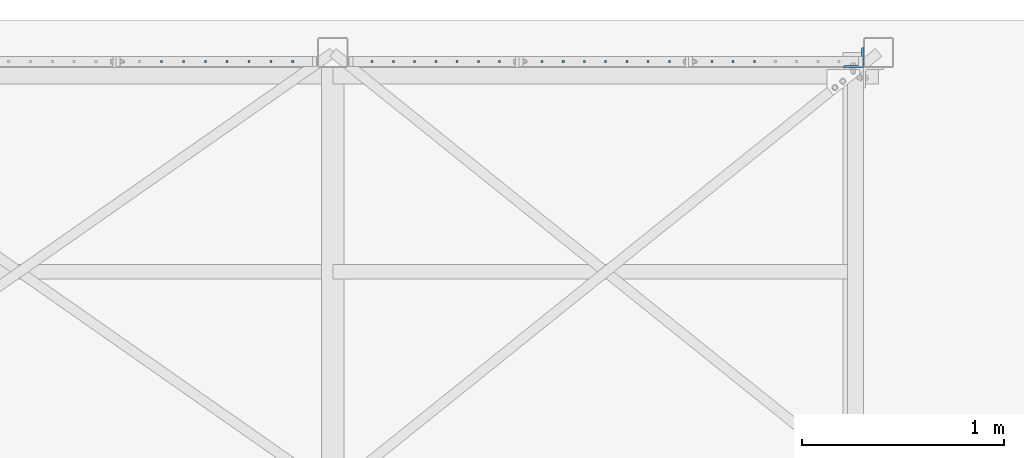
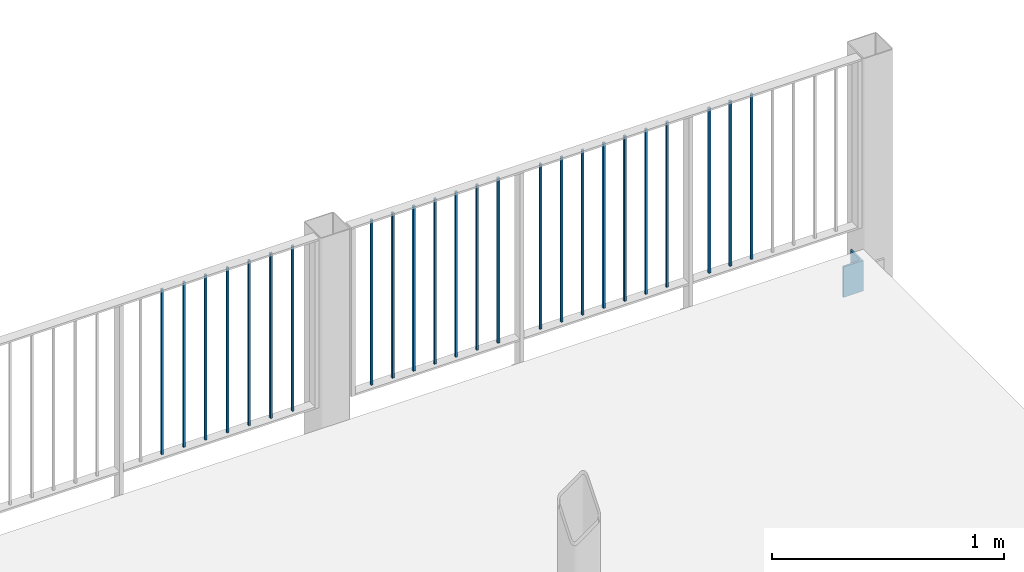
# One storey, part 55 of 78: 25 beams, 3 elements without a shape of their own.
"""IFC2X3 building model written with IfcOpenShell, lengths in millimetres."""

from ifc_helpers import new_model, si_unit, frame, origin_with_axes, origin_2d_with_axis, place, context, subcontext, project, spatial, rectangle, l_section, extrude, clip, halfspace, material, type_object, element, aggregate, save


model = new_model("IFC2X3")

# Units and contexts
model_context = context("Model", 3, precision=1e-05, world=origin_with_axes())
body_context = subcontext(model_context, "Body", "Model", "MODEL_VIEW")
ifc_project = project(units=[si_unit("LENGTHUNIT", "METRE", prefix="MILLI"), si_unit("AREAUNIT", "SQUARE_METRE"), si_unit("VOLUMEUNIT", "CUBIC_METRE"), si_unit("MASSUNIT", "GRAM", prefix="KILO"), si_unit("TIMEUNIT", "SECOND"), si_unit("PLANEANGLEUNIT", "RADIAN"), si_unit("SOLIDANGLEUNIT", "STERADIAN"), si_unit("THERMODYNAMICTEMPERATUREUNIT", "DEGREE_CELSIUS"), si_unit("LUMINOUSINTENSITYUNIT", "LUMEN")], contexts=[model_context])

# Site, building, storey
site_placement = place(None, origin_with_axes())
site = spatial("IfcSite", under=ifc_project, at=site_placement, Name="Site", CompositionType="ELEMENT")
building_placement = place(site_placement, origin_with_axes())
building = spatial("IfcBuilding", under=site, at=building_placement, Name="Undefined", CompositionType="ELEMENT")
storey_placement = place(building_placement, origin_with_axes())
storey = spatial("IfcBuildingStorey", under=building, at=storey_placement, Name="Undefined", CompositionType="ELEMENT", Elevation=0.0)

# Assembly, beams
assembly_1_placement = place(storey_placement, origin_with_axes())
assembly_1 = element("IfcElementAssembly", 1, at=assembly_1_placement, inside=storey, Name="MAIN_COURANTE", AssemblyPlace="NOTDEFINED", PredefinedType="RIGID_FRAME")
ifc_material = material(Name="STEEL/S235JR")
beam_type_1 = type_object("IfcBeamType", Name="PL10*10", PredefinedType="NOTDEFINED")
beam_1_placement = place(assembly_1_placement, frame((1693.57000000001, 32872.9999999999, 157695.04), z_axis=(0.0, -1.0, 0.0), x_axis=(0.0, 0.0, -1.0)))
beam_1 = element("IfcBeam", 2, at=beam_1_placement, type_object=beam_type_1, material=ifc_material, Name="LISSE", ObjectType="PL10*10", context=body_context, shape_type="Clipping", body=[
    clip(clip(extrude(rectangle(XDim=10.0, YDim=10.0, at=origin_2d_with_axis()), frame((880.0, 0.0, 0.0), z_axis=(-1.0, 0.0, 0.0), x_axis=(0.0, -1.0, 0.0)), (0.0, 0.0, 1.0), 880.0), halfspace(frame((875.0, 0.0, 1005.0), z_axis=(1.0, 0.0, 0.0), x_axis=(0.0, 1.0, 0.0)), False)), halfspace(frame((5.0, 0.0, 1005.0), z_axis=(-1.0, 0.0, 0.0), x_axis=(0.0, -1.0, 0.0)), False)),
])
beam_2_placement = place(assembly_1_placement, frame((1798.57000000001, 32872.9999999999, 157695.04), z_axis=(0.0, -1.0, 0.0), x_axis=(0.0, 0.0, -1.0)))
beam_2 = element("IfcBeam", 3, at=beam_2_placement, type_object=beam_type_1, material=ifc_material, Name="LISSE", ObjectType="PL10*10", context=body_context, shape_type="Clipping", body=[
    clip(clip(extrude(rectangle(XDim=10.0, YDim=10.0, at=origin_2d_with_axis()), frame((880.0, 0.0, 0.0), z_axis=(-1.0, 0.0, 0.0), x_axis=(0.0, -1.0, 0.0)), (0.0, 0.0, 1.0), 880.0), halfspace(frame((875.0, 0.0, 1005.0), z_axis=(1.0, 0.0, 0.0), x_axis=(0.0, 1.0, 0.0)), False)), halfspace(frame((5.0, 0.0, 1005.0), z_axis=(-1.0, 0.0, 0.0), x_axis=(0.0, -1.0, 0.0)), False)),
])
beam_3_placement = place(assembly_1_placement, frame((1903.57000000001, 32872.9999999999, 157695.04), z_axis=(0.0, -1.0, 0.0), x_axis=(0.0, 0.0, -1.0)))
beam_3 = element("IfcBeam", 4, at=beam_3_placement, type_object=beam_type_1, material=ifc_material, Name="LISSE", ObjectType="PL10*10", context=body_context, shape_type="Clipping", body=[
    clip(clip(extrude(rectangle(XDim=10.0, YDim=10.0, at=origin_2d_with_axis()), frame((880.0, 0.0, 0.0), z_axis=(-1.0, 0.0, 0.0), x_axis=(0.0, -1.0, 0.0)), (0.0, 0.0, 1.0), 880.0), halfspace(frame((875.0, 0.0, 1005.0), z_axis=(1.0, 0.0, 0.0), x_axis=(0.0, 1.0, 0.0)), False)), halfspace(frame((5.0, 0.0, 1005.0), z_axis=(-1.0, 0.0, 0.0), x_axis=(0.0, -1.0, 0.0)), False)),
])
beam_4_placement = place(assembly_1_placement, frame((2008.57000000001, 32872.9999999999, 157695.04), z_axis=(0.0, -1.0, 0.0), x_axis=(0.0, 0.0, -1.0)))
beam_4 = element("IfcBeam", 5, at=beam_4_placement, type_object=beam_type_1, material=ifc_material, Name="LISSE", ObjectType="PL10*10", context=body_context, shape_type="Clipping", body=[
    clip(clip(extrude(rectangle(XDim=10.0, YDim=10.0, at=origin_2d_with_axis()), frame((880.0, 0.0, 0.0), z_axis=(-1.0, 0.0, 0.0), x_axis=(0.0, -1.0, 0.0)), (0.0, 0.0, 1.0), 880.0), halfspace(frame((875.0, 0.0, 1005.0), z_axis=(1.0, 0.0, 0.0), x_axis=(0.0, 1.0, 0.0)), False)), halfspace(frame((5.0, 0.0, 1005.0), z_axis=(-1.0, 0.0, 0.0), x_axis=(0.0, -1.0, 0.0)), False)),
])
beam_5_placement = place(assembly_1_placement, frame((2113.57000000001, 32872.9999999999, 157695.04), z_axis=(0.0, -1.0, 0.0), x_axis=(0.0, 0.0, -1.0)))
beam_5 = element("IfcBeam", 6, at=beam_5_placement, type_object=beam_type_1, material=ifc_material, Name="LISSE", ObjectType="PL10*10", context=body_context, shape_type="Clipping", body=[
    clip(clip(extrude(rectangle(XDim=10.0, YDim=10.0, at=origin_2d_with_axis()), frame((880.0, 0.0, 0.0), z_axis=(-1.0, 0.0, 0.0), x_axis=(0.0, -1.0, 0.0)), (0.0, 0.0, 1.0), 880.0), halfspace(frame((875.0, 0.0, 1005.0), z_axis=(1.0, 0.0, 0.0), x_axis=(0.0, 1.0, 0.0)), False)), halfspace(frame((5.0, 0.0, 1005.0), z_axis=(-1.0, 0.0, 0.0), x_axis=(0.0, -1.0, 0.0)), False)),
])
beam_6_placement = place(assembly_1_placement, frame((2218.57000000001, 32872.9999999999, 157695.04), z_axis=(0.0, -1.0, 0.0), x_axis=(0.0, 0.0, -1.0)))
beam_6 = element("IfcBeam", 7, at=beam_6_placement, type_object=beam_type_1, material=ifc_material, Name="LISSE", ObjectType="PL10*10", context=body_context, shape_type="Clipping", body=[
    clip(clip(extrude(rectangle(XDim=10.0, YDim=10.0, at=origin_2d_with_axis()), frame((880.0, 0.0, 0.0), z_axis=(-1.0, 0.0, 0.0), x_axis=(0.0, -1.0, 0.0)), (0.0, 0.0, 1.0), 880.0), halfspace(frame((875.0, 0.0, 1005.0), z_axis=(1.0, 0.0, 0.0), x_axis=(0.0, 1.0, 0.0)), False)), halfspace(frame((5.0, 0.0, 1005.0), z_axis=(-1.0, 0.0, 0.0), x_axis=(0.0, -1.0, 0.0)), False)),
])
beam_7_placement = place(assembly_1_placement, frame((2323.57000000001, 32872.9999999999, 157695.04), z_axis=(0.0, -1.0, 0.0), x_axis=(0.0, 0.0, -1.0)))
beam_7 = element("IfcBeam", 8, at=beam_7_placement, type_object=beam_type_1, material=ifc_material, Name="LISSE", ObjectType="PL10*10", context=body_context, shape_type="Clipping", body=[
    clip(clip(extrude(rectangle(XDim=10.0, YDim=10.0, at=origin_2d_with_axis()), frame((880.0, 0.0, 0.0), z_axis=(-1.0, 0.0, 0.0), x_axis=(0.0, -1.0, 0.0)), (0.0, 0.0, 1.0), 880.0), halfspace(frame((875.0, 0.0, 1005.0), z_axis=(1.0, 0.0, 0.0), x_axis=(0.0, 1.0, 0.0)), False)), halfspace(frame((5.0, 0.0, 1005.0), z_axis=(-1.0, 0.0, 0.0), x_axis=(0.0, -1.0, 0.0)), False)),
])
beam_8_placement = place(assembly_1_placement, frame((2533.57000000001, 32872.9999999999, 157695.04), z_axis=(0.0, -1.0, 0.0), x_axis=(0.0, 0.0, -1.0)))
beam_8 = element("IfcBeam", 9, at=beam_8_placement, type_object=beam_type_1, material=ifc_material, Name="LISSE", ObjectType="PL10*10", context=body_context, shape_type="Clipping", body=[
    clip(clip(extrude(rectangle(XDim=10.0, YDim=10.0, at=origin_2d_with_axis()), frame((880.0, 0.0, 0.0), z_axis=(-1.0, 0.0, 0.0), x_axis=(0.0, -1.0, 0.0)), (0.0, 0.0, 1.0), 880.0), halfspace(frame((875.0, 0.0, 1005.0), z_axis=(1.0, 0.0, 0.0), x_axis=(0.0, 1.0, 0.0)), False)), halfspace(frame((5.0, 0.0, 1005.0), z_axis=(-1.0, 0.0, 0.0), x_axis=(0.0, -1.0, 0.0)), False)),
])
beam_9_placement = place(assembly_1_placement, frame((2638.57000000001, 32872.9999999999, 157695.04), z_axis=(0.0, -1.0, 0.0), x_axis=(0.0, 0.0, -1.0)))
beam_9 = element("IfcBeam", 10, at=beam_9_placement, type_object=beam_type_1, material=ifc_material, Name="LISSE", ObjectType="PL10*10", context=body_context, shape_type="Clipping", body=[
    clip(clip(extrude(rectangle(XDim=10.0, YDim=10.0, at=origin_2d_with_axis()), frame((880.0, 0.0, 0.0), z_axis=(-1.0, 0.0, 0.0), x_axis=(0.0, -1.0, 0.0)), (0.0, 0.0, 1.0), 880.0), halfspace(frame((875.0, 0.0, 1005.0), z_axis=(1.0, 0.0, 0.0), x_axis=(0.0, 1.0, 0.0)), False)), halfspace(frame((5.0, 0.0, 1005.0), z_axis=(-1.0, 0.0, 0.0), x_axis=(0.0, -1.0, 0.0)), False)),
])
beam_10_placement = place(assembly_1_placement, frame((2743.57000000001, 32872.9999999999, 157695.04), z_axis=(0.0, -1.0, 0.0), x_axis=(0.0, 0.0, -1.0)))
beam_10 = element("IfcBeam", 11, at=beam_10_placement, type_object=beam_type_1, material=ifc_material, Name="LISSE", ObjectType="PL10*10", context=body_context, shape_type="Clipping", body=[
    clip(clip(extrude(rectangle(XDim=10.0, YDim=10.0, at=origin_2d_with_axis()), frame((880.0, 0.0, 0.0), z_axis=(-1.0, 0.0, 0.0), x_axis=(0.0, -1.0, 0.0)), (0.0, 0.0, 1.0), 880.0), halfspace(frame((875.0, 0.0, 1005.0), z_axis=(1.0, 0.0, 0.0), x_axis=(0.0, 1.0, 0.0)), False)), halfspace(frame((5.0, 0.0, 1005.0), z_axis=(-1.0, 0.0, 0.0), x_axis=(0.0, -1.0, 0.0)), False)),
])
beam_11_placement = place(assembly_1_placement, frame((2848.57000000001, 32872.9999999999, 157695.04), z_axis=(0.0, -1.0, 0.0), x_axis=(0.0, 0.0, -1.0)))
beam_11 = element("IfcBeam", 12, at=beam_11_placement, type_object=beam_type_1, material=ifc_material, Name="LISSE", ObjectType="PL10*10", context=body_context, shape_type="Clipping", body=[
    clip(clip(extrude(rectangle(XDim=10.0, YDim=10.0, at=origin_2d_with_axis()), frame((880.0, 0.0, 0.0), z_axis=(-1.0, 0.0, 0.0), x_axis=(0.0, -1.0, 0.0)), (0.0, 0.0, 1.0), 880.0), halfspace(frame((875.0, 0.0, 1005.0), z_axis=(1.0, 0.0, 0.0), x_axis=(0.0, 1.0, 0.0)), False)), halfspace(frame((5.0, 0.0, 1005.0), z_axis=(-1.0, 0.0, 0.0), x_axis=(0.0, -1.0, 0.0)), False)),
])
beam_12_placement = place(assembly_1_placement, frame((2953.57000000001, 32872.9999999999, 157695.04), z_axis=(0.0, -1.0, 0.0), x_axis=(0.0, 0.0, -1.0)))
beam_12 = element("IfcBeam", 13, at=beam_12_placement, type_object=beam_type_1, material=ifc_material, Name="LISSE", ObjectType="PL10*10", context=body_context, shape_type="Clipping", body=[
    clip(clip(extrude(rectangle(XDim=10.0, YDim=10.0, at=origin_2d_with_axis()), frame((880.0, 0.0, 0.0), z_axis=(-1.0, 0.0, 0.0), x_axis=(0.0, -1.0, 0.0)), (0.0, 0.0, 1.0), 880.0), halfspace(frame((875.0, 0.0, 1005.0), z_axis=(1.0, 0.0, 0.0), x_axis=(0.0, 1.0, 0.0)), False)), halfspace(frame((5.0, 0.0, 1005.0), z_axis=(-1.0, 0.0, 0.0), x_axis=(0.0, -1.0, 0.0)), False)),
])
beam_13_placement = place(assembly_1_placement, frame((3058.57000000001, 32872.9999999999, 157695.04), z_axis=(0.0, -1.0, 0.0), x_axis=(0.0, 0.0, -1.0)))
beam_13 = element("IfcBeam", 14, at=beam_13_placement, type_object=beam_type_1, material=ifc_material, Name="LISSE", ObjectType="PL10*10", context=body_context, shape_type="Clipping", body=[
    clip(clip(extrude(rectangle(XDim=10.0, YDim=10.0, at=origin_2d_with_axis()), frame((880.0, 0.0, 0.0), z_axis=(-1.0, 0.0, 0.0), x_axis=(0.0, -1.0, 0.0)), (0.0, 0.0, 1.0), 880.0), halfspace(frame((875.0, 0.0, 1005.0), z_axis=(1.0, 0.0, 0.0), x_axis=(0.0, 1.0, 0.0)), False)), halfspace(frame((5.0, 0.0, 1005.0), z_axis=(-1.0, 0.0, 0.0), x_axis=(0.0, -1.0, 0.0)), False)),
])
beam_14_placement = place(assembly_1_placement, frame((3163.57000000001, 32872.9999999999, 157695.04), z_axis=(0.0, -1.0, 0.0), x_axis=(0.0, 0.0, -1.0)))
beam_14 = element("IfcBeam", 15, at=beam_14_placement, type_object=beam_type_1, material=ifc_material, Name="LISSE", ObjectType="PL10*10", context=body_context, shape_type="Clipping", body=[
    clip(clip(extrude(rectangle(XDim=10.0, YDim=10.0, at=origin_2d_with_axis()), frame((880.0, 0.0, 0.0), z_axis=(-1.0, 0.0, 0.0), x_axis=(0.0, -1.0, 0.0)), (0.0, 0.0, 1.0), 880.0), halfspace(frame((875.0, 0.0, 1005.0), z_axis=(1.0, 0.0, 0.0), x_axis=(0.0, 1.0, 0.0)), False)), halfspace(frame((5.0, 0.0, 1005.0), z_axis=(-1.0, 0.0, 0.0), x_axis=(0.0, -1.0, 0.0)), False)),
])
beam_15_placement = place(assembly_1_placement, frame((3373.57000000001, 32872.9999999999, 157695.04), z_axis=(0.0, -1.0, 0.0), x_axis=(0.0, 0.0, -1.0)))
beam_15 = element("IfcBeam", 16, at=beam_15_placement, type_object=beam_type_1, material=ifc_material, Name="LISSE", ObjectType="PL10*10", context=body_context, shape_type="Clipping", body=[
    clip(clip(extrude(rectangle(XDim=10.0, YDim=10.0, at=origin_2d_with_axis()), frame((880.0, 0.0, 0.0), z_axis=(-1.0, 0.0, 0.0), x_axis=(0.0, -1.0, 0.0)), (0.0, 0.0, 1.0), 880.0), halfspace(frame((875.0, 0.0, 1005.0), z_axis=(1.0, 0.0, 0.0), x_axis=(0.0, 1.0, 0.0)), False)), halfspace(frame((5.0, 0.0, 1005.0), z_axis=(-1.0, 0.0, 0.0), x_axis=(0.0, -1.0, 0.0)), False)),
])
beam_16_placement = place(assembly_1_placement, frame((3478.57000000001, 32872.9999999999, 157695.04), z_axis=(0.0, -1.0, 0.0), x_axis=(0.0, 0.0, -1.0)))
beam_16 = element("IfcBeam", 17, at=beam_16_placement, type_object=beam_type_1, material=ifc_material, Name="LISSE", ObjectType="PL10*10", context=body_context, shape_type="Clipping", body=[
    clip(clip(extrude(rectangle(XDim=10.0, YDim=10.0, at=origin_2d_with_axis()), frame((880.0, 0.0, 0.0), z_axis=(-1.0, 0.0, 0.0), x_axis=(0.0, -1.0, 0.0)), (0.0, 0.0, 1.0), 880.0), halfspace(frame((875.0, 0.0, 1005.0), z_axis=(1.0, 0.0, 0.0), x_axis=(0.0, 1.0, 0.0)), False)), halfspace(frame((5.0, 0.0, 1005.0), z_axis=(-1.0, 0.0, 0.0), x_axis=(0.0, -1.0, 0.0)), False)),
])
beam_17_placement = place(assembly_1_placement, frame((3583.57000000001, 32872.9999999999, 157695.04), z_axis=(0.0, -1.0, 0.0), x_axis=(0.0, 0.0, -1.0)))
beam_17 = element("IfcBeam", 18, at=beam_17_placement, type_object=beam_type_1, material=ifc_material, Name="LISSE", ObjectType="PL10*10", context=body_context, shape_type="Clipping", body=[
    clip(clip(extrude(rectangle(XDim=10.0, YDim=10.0, at=origin_2d_with_axis()), frame((880.0, 0.0, 0.0), z_axis=(-1.0, 0.0, 0.0), x_axis=(0.0, -1.0, 0.0)), (0.0, 0.0, 1.0), 880.0), halfspace(frame((875.0, 0.0, 1005.0), z_axis=(1.0, 0.0, 0.0), x_axis=(0.0, 1.0, 0.0)), False)), halfspace(frame((5.0, 0.0, 1005.0), z_axis=(-1.0, 0.0, 0.0), x_axis=(0.0, -1.0, 0.0)), False)),
])
aggregate(assembly_1, [beam_1, beam_2, beam_3, beam_4, beam_5, beam_6, beam_7, beam_8, beam_9, beam_10, beam_11, beam_12, beam_13, beam_14, beam_15, beam_16, beam_17])

assembly_2_placement = place(storey_placement, origin_with_axes())
assembly_2 = element("IfcElementAssembly", 19, at=assembly_2_placement, inside=storey, Name="MAIN_COURANTE", AssemblyPlace="NOTDEFINED", PredefinedType="RIGID_FRAME")
beam_18_placement = place(assembly_2_placement, frame((651.532962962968, 32873.0, 157695.04), z_axis=(0.0, -1.0, 0.0), x_axis=(0.0, 0.0, -1.0)))
beam_18 = element("IfcBeam", 20, at=beam_18_placement, type_object=beam_type_1, material=ifc_material, Name="LISSE", ObjectType="PL10*10", context=body_context, shape_type="Clipping", body=[
    clip(clip(extrude(rectangle(XDim=10.0, YDim=10.0, at=origin_2d_with_axis()), frame((880.0, 0.0, 0.0), z_axis=(-1.0, 0.0, 0.0), x_axis=(0.0, -1.0, 0.0)), (0.0, 0.0, 1.0), 880.0), halfspace(frame((875.0, 0.0, 1005.0), z_axis=(1.0, 0.0, 0.0), x_axis=(0.0, 1.0, 0.0)), False)), halfspace(frame((5.0, 0.0, 1005.0), z_axis=(-1.0, 0.0, 0.0), x_axis=(0.0, -1.0, 0.0)), False)),
])
beam_19_placement = place(assembly_2_placement, frame((759.681111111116, 32873.0, 157695.04), z_axis=(0.0, -1.0, 0.0), x_axis=(0.0, 0.0, -1.0)))
beam_19 = element("IfcBeam", 21, at=beam_19_placement, type_object=beam_type_1, material=ifc_material, Name="LISSE", ObjectType="PL10*10", context=body_context, shape_type="Clipping", body=[
    clip(clip(extrude(rectangle(XDim=10.0, YDim=10.0, at=origin_2d_with_axis()), frame((880.0, 0.0, 0.0), z_axis=(-1.0, 0.0, 0.0), x_axis=(0.0, -1.0, 0.0)), (0.0, 0.0, 1.0), 880.0), halfspace(frame((875.0, 0.0, 1005.0), z_axis=(1.0, 0.0, 0.0), x_axis=(0.0, 1.0, 0.0)), False)), halfspace(frame((5.0, 0.0, 1005.0), z_axis=(-1.0, 0.0, 0.0), x_axis=(0.0, -1.0, 0.0)), False)),
])
beam_20_placement = place(assembly_2_placement, frame((867.829259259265, 32873.0, 157695.04), z_axis=(0.0, -1.0, 0.0), x_axis=(0.0, 0.0, -1.0)))
beam_20 = element("IfcBeam", 22, at=beam_20_placement, type_object=beam_type_1, material=ifc_material, Name="LISSE", ObjectType="PL10*10", context=body_context, shape_type="Clipping", body=[
    clip(clip(extrude(rectangle(XDim=10.0, YDim=10.0, at=origin_2d_with_axis()), frame((880.0, 0.0, 0.0), z_axis=(-1.0, 0.0, 0.0), x_axis=(0.0, -1.0, 0.0)), (0.0, 0.0, 1.0), 880.0), halfspace(frame((875.0, 0.0, 1005.0), z_axis=(1.0, 0.0, 0.0), x_axis=(0.0, 1.0, 0.0)), False)), halfspace(frame((5.0, 0.0, 1005.0), z_axis=(-1.0, 0.0, 0.0), x_axis=(0.0, -1.0, 0.0)), False)),
])
beam_21_placement = place(assembly_2_placement, frame((975.977407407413, 32873.0, 157695.04), z_axis=(0.0, -1.0, 0.0), x_axis=(0.0, 0.0, -1.0)))
beam_21 = element("IfcBeam", 23, at=beam_21_placement, type_object=beam_type_1, material=ifc_material, Name="LISSE", ObjectType="PL10*10", context=body_context, shape_type="Clipping", body=[
    clip(clip(extrude(rectangle(XDim=10.0, YDim=10.0, at=origin_2d_with_axis()), frame((880.0, 0.0, 0.0), z_axis=(-1.0, 0.0, 0.0), x_axis=(0.0, -1.0, 0.0)), (0.0, 0.0, 1.0), 880.0), halfspace(frame((875.0, 0.0, 1005.0), z_axis=(1.0, 0.0, 0.0), x_axis=(0.0, 1.0, 0.0)), False)), halfspace(frame((5.0, 0.0, 1005.0), z_axis=(-1.0, 0.0, 0.0), x_axis=(0.0, -1.0, 0.0)), False)),
])
beam_22_placement = place(assembly_2_placement, frame((1084.12555555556, 32873.0, 157695.04), z_axis=(0.0, -1.0, 0.0), x_axis=(0.0, 0.0, -1.0)))
beam_22 = element("IfcBeam", 24, at=beam_22_placement, type_object=beam_type_1, material=ifc_material, Name="LISSE", ObjectType="PL10*10", context=body_context, shape_type="Clipping", body=[
    clip(clip(extrude(rectangle(XDim=10.0, YDim=10.0, at=origin_2d_with_axis()), frame((880.0, 0.0, 0.0), z_axis=(-1.0, 0.0, 0.0), x_axis=(0.0, -1.0, 0.0)), (0.0, 0.0, 1.0), 880.0), halfspace(frame((875.0, 0.0, 1005.0), z_axis=(1.0, 0.0, 0.0), x_axis=(0.0, 1.0, 0.0)), False)), halfspace(frame((5.0, 0.0, 1005.0), z_axis=(-1.0, 0.0, 0.0), x_axis=(0.0, -1.0, 0.0)), False)),
])
beam_23_placement = place(assembly_2_placement, frame((1192.27370370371, 32873.0, 157695.04), z_axis=(0.0, -1.0, 0.0), x_axis=(0.0, 0.0, -1.0)))
beam_23 = element("IfcBeam", 25, at=beam_23_placement, type_object=beam_type_1, material=ifc_material, Name="LISSE", ObjectType="PL10*10", context=body_context, shape_type="Clipping", body=[
    clip(clip(extrude(rectangle(XDim=10.0, YDim=10.0, at=origin_2d_with_axis()), frame((880.0, 0.0, 0.0), z_axis=(-1.0, 0.0, 0.0), x_axis=(0.0, -1.0, 0.0)), (0.0, 0.0, 1.0), 880.0), halfspace(frame((875.0, 0.0, 1005.0), z_axis=(1.0, 0.0, 0.0), x_axis=(0.0, 1.0, 0.0)), False)), halfspace(frame((5.0, 0.0, 1005.0), z_axis=(-1.0, 0.0, 0.0), x_axis=(0.0, -1.0, 0.0)), False)),
])
beam_24_placement = place(assembly_2_placement, frame((1300.42185185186, 32873.0, 157695.04), z_axis=(0.0, -1.0, 0.0), x_axis=(0.0, 0.0, -1.0)))
beam_24 = element("IfcBeam", 26, at=beam_24_placement, type_object=beam_type_1, material=ifc_material, Name="LISSE", ObjectType="PL10*10", context=body_context, shape_type="Clipping", body=[
    clip(clip(extrude(rectangle(XDim=10.0, YDim=10.0, at=origin_2d_with_axis()), frame((880.0, 0.0, 0.0), z_axis=(-1.0, 0.0, 0.0), x_axis=(0.0, -1.0, 0.0)), (0.0, 0.0, 1.0), 880.0), halfspace(frame((875.0, 0.0, 1005.0), z_axis=(1.0, 0.0, 0.0), x_axis=(0.0, 1.0, 0.0)), False)), halfspace(frame((5.0, 0.0, 1005.0), z_axis=(-1.0, 0.0, 0.0), x_axis=(0.0, -1.0, 0.0)), False)),
])
aggregate(assembly_2, [beam_18, beam_19, beam_20, beam_21, beam_22, beam_23, beam_24])

# Assembly, beam
assembly_3_placement = place(storey_placement, origin_with_axes())
assembly_3 = element("IfcElementAssembly", 27, at=assembly_3_placement, inside=storey, Name="POTEAU", AssemblyPlace="NOTDEFINED", PredefinedType="RIGID_FRAME")
beam_type_2 = type_object("IfcBeamType", Name="L100*10", PredefinedType="NOTDEFINED")
beam_25_placement = place(assembly_3_placement, frame((4073.57, 32893.0000000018, 156640.04), z_axis=(-1.0, 0.0, 0.0), x_axis=(0.0, 0.0, -1.0)))
beam_25 = element("IfcBeam", 28, at=beam_25_placement, type_object=beam_type_2, material=ifc_material, Name="CORNIERE", ObjectType="L100*10", context=body_context, shape_type="SweptSolid", body=[
    extrude(l_section(Depth=100.0, Width=100.0, Thickness=10.0, FilletRadius=12.0, EdgeRadius=6.0, at=origin_2d_with_axis()), frame((160.0, 0.0, 0.0), z_axis=(-1.0, 0.0, 0.0), x_axis=(0.0, -1.0, 0.0)), (0.0, 0.0, 1.0), 160.0),
])
aggregate(assembly_3, [beam_25])

save(model, "model.ifc")
